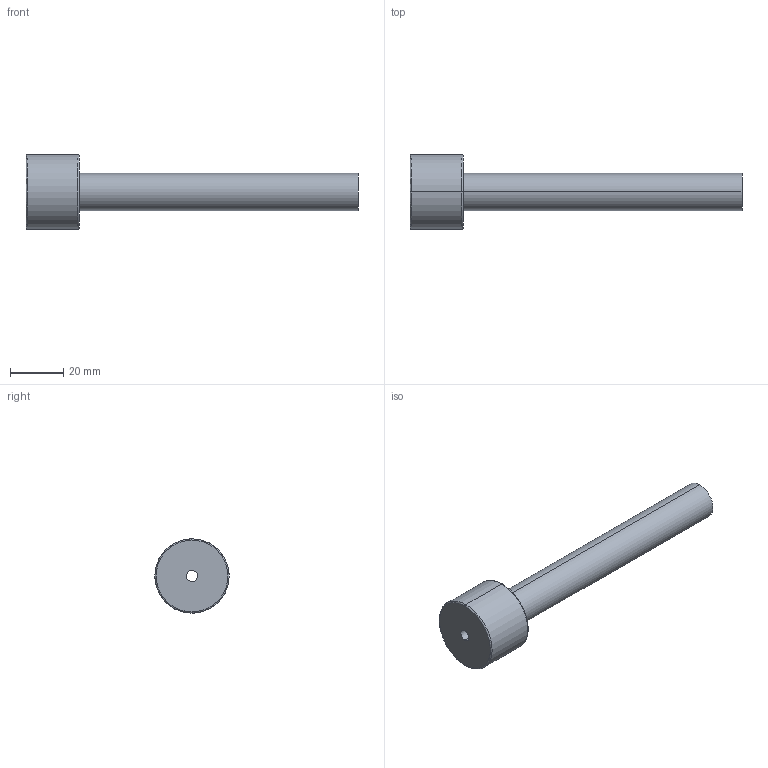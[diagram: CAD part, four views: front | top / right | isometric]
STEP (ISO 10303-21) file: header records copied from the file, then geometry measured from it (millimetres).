
FILE_DESCRIPTION(('CATIA V5 STEP Exchange'),'2;1');
FILE_NAME('C:\Users\Utente\Desktop\IO LAVORO\3D X SITO CF\X SITO\PLASTICA\3D files 367\367F-14X125.stp','2021-03-24T15:50:04+00:00',('none'),('none'),'CATIA Version 5 Release 20 GA (IN-10)','CATIA V5 STEP AP203','none');
FILE_SCHEMA(('CONFIG_CONTROL_DESIGN'));
Length unit declared in the file: millimetre
Products named in the file (1): 367F-14X125
Bounding box: 125 x 28 x 28 mm (x, y, z)
Volume: 22487.8 mm3; surface area: 10439.1 mm2
Topology: 1 solids, 1 shells, 13 faces, 42 edges, 32 vertices
Faces by surface type: torus 4, cylinder 4, plane 3, cone 2
Entity records: 614 total; most frequent: CARTESIAN_POINT 200, ORIENTED_EDGE 84, DIRECTION 60, AXIS2_PLACEMENT_3D 42, EDGE_CURVE 42, VERTEX_POINT 32, CIRCLE 28, EDGE_LOOP 16
